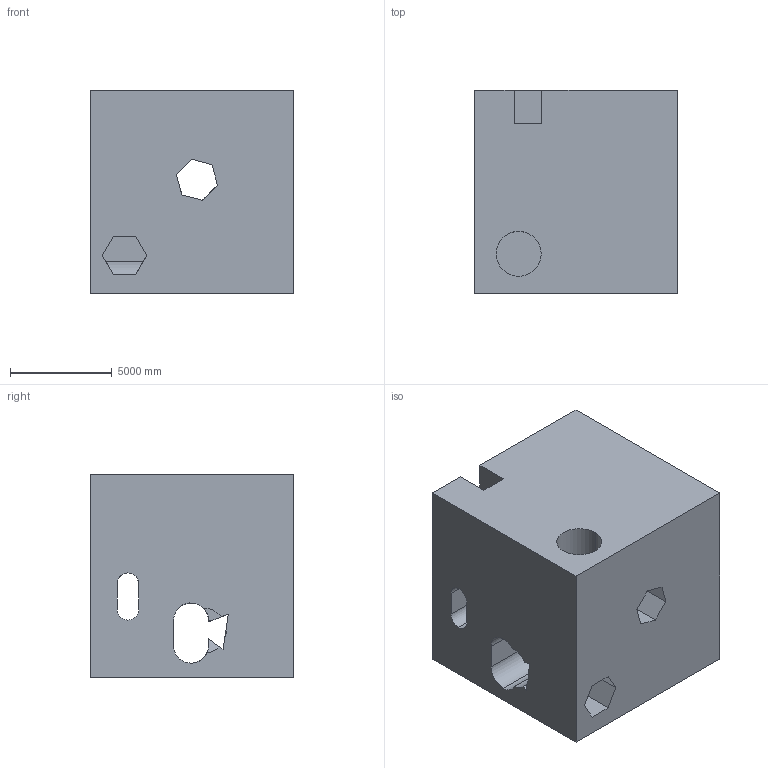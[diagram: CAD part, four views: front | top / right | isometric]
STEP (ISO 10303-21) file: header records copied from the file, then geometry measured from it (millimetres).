
FILE_DESCRIPTION (( 'STEP AP203' ), '1' );
FILE_NAME ('1807.STEP', '2022-08-19T13:04:24', ( 'user' ), ( '' ), 'SwSTEP 2.0', 'SolidWorks 2021', '' );
FILE_SCHEMA (( 'CONFIG_CONTROL_DESIGN' ));
Length unit declared in the file: centimetre
Products named in the file (1): 1807
Bounding box: 10000 x 10000 x 10000 mm (x, y, z)
Volume: 861431823384.9 mm3; surface area: 835430795.5 mm2
Topology: 1 solids, 1 shells, 54 faces, 162 edges, 108 vertices
Faces by surface type: plane 40, cylinder 14
Entity records: 1908 total; most frequent: CARTESIAN_POINT 352, ORIENTED_EDGE 324, DIRECTION 288, EDGE_CURVE 162, LINE 128, VECTOR 128, VERTEX_POINT 108, AXIS2_PLACEMENT_3D 80
